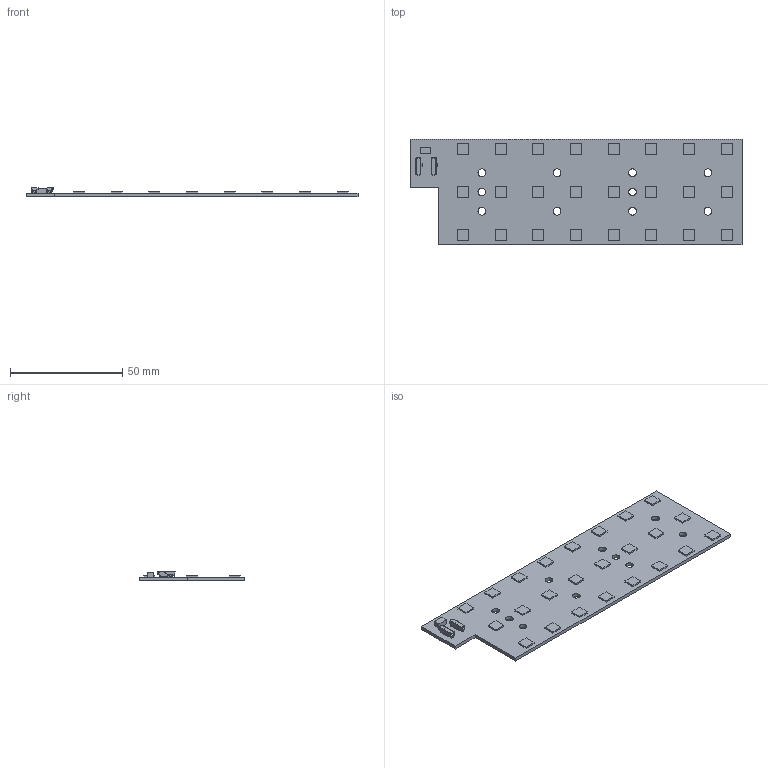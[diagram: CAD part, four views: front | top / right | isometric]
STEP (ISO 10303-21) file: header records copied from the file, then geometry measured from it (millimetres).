
FILE_DESCRIPTION(('Open CASCADE Model'),'2;1');
FILE_NAME('Open CASCADE Shape Model','2025-09-11T10:57:05',('Author'),( 'Open CASCADE'),'Open CASCADE STEP processor 6.8','Open CASCADE 6.8' ,'Unknown');
FILE_SCHEMA(('AUTOMOTIVE_DESIGN { 1 0 10303 214 1 1 1 1 }'));
Length unit declared in the file: millimetre
Products named in the file (1): PCB
Bounding box: 148 x 47 x 4.3 mm (x, y, z)
Volume: 10955.4 mm3; surface area: 15774.2 mm2
Topology: 28 solids, 28 shells, 510 faces, 1390 edges, 922 vertices
Faces by surface type: plane 354, cylinder 156
Full cylindrical faces by diameter (mm): 3.4 x10
Entity records: 16320 total; most frequent: CARTESIAN_POINT 2835, ORIENTED_EDGE 2780, DIRECTION 2754, EDGE_CURVE 1390, LINE 1040, VECTOR 1040, VERTEX_POINT 922, AXIS2_PLACEMENT_3D 857
